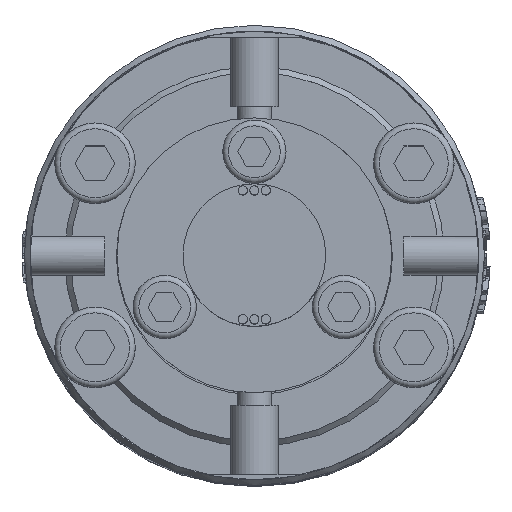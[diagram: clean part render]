
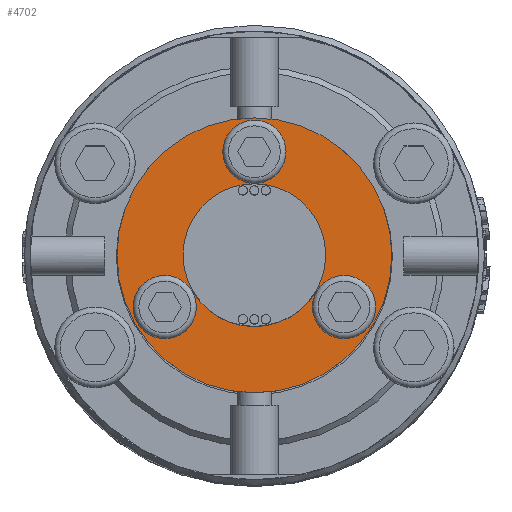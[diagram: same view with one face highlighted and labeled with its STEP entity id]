
A CAD part, top view. The second image highlights one B-rep face of the part: STEP entity #4702.
In plain terms, the highlighted planar face has unit normal (0, 0, 1).
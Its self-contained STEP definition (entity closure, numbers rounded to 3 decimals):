
#895=FACE_BOUND('',#7118,.T.);
#896=FACE_BOUND('',#7119,.T.);
#897=FACE_BOUND('',#7120,.T.);
#898=FACE_BOUND('',#7121,.T.);
#899=FACE_BOUND('',#7122,.T.);
#1503=PLANE('',#22023);
#4702=ADVANCED_FACE('',(#895,#896,#897,#898,#899),#1503,.T.);
#7118=EDGE_LOOP('',(#15660));
#7119=EDGE_LOOP('',(#15661));
#7120=EDGE_LOOP('',(#15662));
#7121=EDGE_LOOP('',(#15663));
#7122=EDGE_LOOP('',(#15664));
#15660=ORIENTED_EDGE('',*,*,#20665,.F.);
#15661=ORIENTED_EDGE('',*,*,#20679,.F.);
#15662=ORIENTED_EDGE('',*,*,#20700,.F.);
#15663=ORIENTED_EDGE('',*,*,#20820,.F.);
#15664=ORIENTED_EDGE('',*,*,#20819,.F.);
#17664=VERTEX_POINT('',#43522);
#17672=VERTEX_POINT('',#43553);
#17687=VERTEX_POINT('',#43599);
#17772=VERTEX_POINT('',#43865);
#17773=VERTEX_POINT('',#43868);
#20665=EDGE_CURVE('',#17664,#17664,#21013,.T.);
#20679=EDGE_CURVE('',#17672,#17672,#21015,.T.);
#20700=EDGE_CURVE('',#17687,#17687,#21018,.T.);
#20819=EDGE_CURVE('',#17772,#17772,#21047,.T.);
#20820=EDGE_CURVE('',#17773,#17773,#21048,.T.);
#21013=CIRCLE('',#21905,2.75);
#21015=CIRCLE('',#21916,2.75);
#21018=CIRCLE('',#21929,2.75);
#21047=CIRCLE('',#22020,11.95);
#21048=CIRCLE('',#22022,6.2);
#21905=AXIS2_PLACEMENT_3D('',#43521,#24795,#24796);
#21916=AXIS2_PLACEMENT_3D('',#43552,#24829,#24830);
#21929=AXIS2_PLACEMENT_3D('',#43598,#24873,#24874);
#22020=AXIS2_PLACEMENT_3D('',#43864,#25145,#25146);
#22022=AXIS2_PLACEMENT_3D('',#43867,#25149,#25150);
#22023=AXIS2_PLACEMENT_3D('',#43869,#25151,#25152);
#24795=DIRECTION('',(0.,0.,1.));
#24796=DIRECTION('',(1.,0.,0.));
#24829=DIRECTION('',(0.,0.,1.));
#24830=DIRECTION('',(-0.5,0.866,0.));
#24873=DIRECTION('',(0.,0.,1.));
#24874=DIRECTION('',(-0.5,-0.866,0.));
#25145=DIRECTION('',(0.,0.,-1.));
#25146=DIRECTION('',(0.,1.,0.));
#25149=DIRECTION('',(0.,0.,1.));
#25150=DIRECTION('',(0.,1.,0.));
#25151=DIRECTION('',(0.,0.,1.));
#25152=DIRECTION('',(0.,1.,0.));
#43521=CARTESIAN_POINT('',(0.,9.,79.5));
#43522=CARTESIAN_POINT('',(2.75,9.,79.5));
#43552=CARTESIAN_POINT('',(-7.794,-4.5,79.5));
#43553=CARTESIAN_POINT('',(-9.169,-2.118,79.5));
#43598=CARTESIAN_POINT('',(7.794,-4.5,79.5));
#43599=CARTESIAN_POINT('',(6.419,-6.882,79.5));
#43864=CARTESIAN_POINT('',(0.,0.,79.5));
#43865=CARTESIAN_POINT('',(0.,11.95,79.5));
#43867=CARTESIAN_POINT('',(0.,0.,79.5));
#43868=CARTESIAN_POINT('',(0.,6.2,79.5));
#43869=CARTESIAN_POINT('',(0.,0.,79.5));
